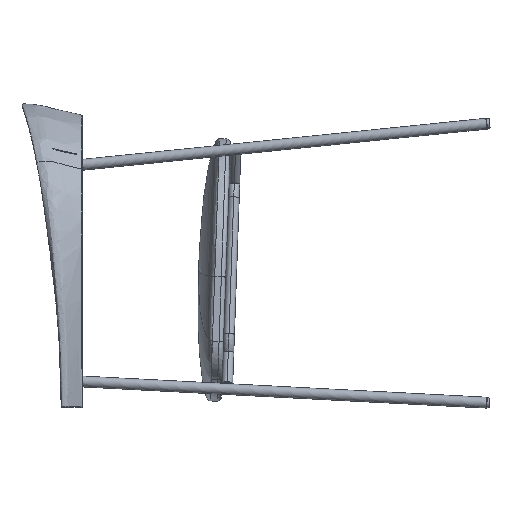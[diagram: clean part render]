
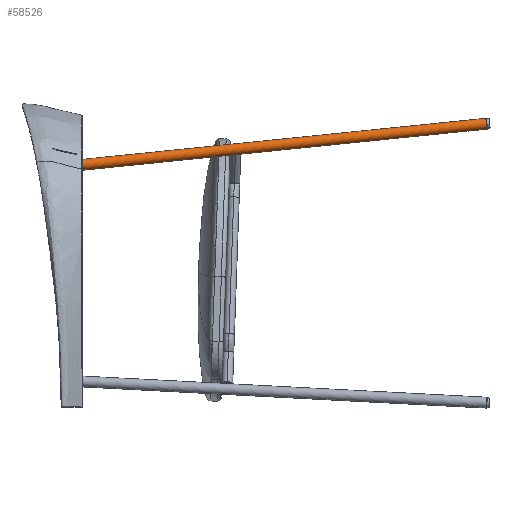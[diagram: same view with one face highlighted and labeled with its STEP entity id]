
A CAD part, left-side view. The second image highlights one B-rep face of the part: STEP entity #58526.
In plain terms, the highlighted cylindrical face has radius 9 mm (diameter 18 mm), a partial arc.
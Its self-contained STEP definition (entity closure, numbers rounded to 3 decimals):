
#12 = EDGE_CURVE ( 'NONE', #6083, #65000, #40875, .T. ) ;
#6083 = VERTEX_POINT ( 'NONE', #10333 ) ;
#10198 = VERTEX_POINT ( 'NONE', #58269 ) ;
#10333 = CARTESIAN_POINT ( 'NONE',  ( -198.85, -0.91, 200.226 ) ) ;
#10559 = DIRECTION ( 'NONE',  ( 0., 0.101, 0.995 ) ) ;
#11785 = LINE ( 'NONE', #63733, #47596 ) ;
#13680 = VERTEX_POINT ( 'NONE', #14465 ) ;
#14465 = CARTESIAN_POINT ( 'NONE',  ( -180.2, 671.459, 150.022 ) ) ;
#16642 = AXIS2_PLACEMENT_3D ( 'NONE', #66575, #41441, #60799 ) ;
#18422 = ORIENTED_EDGE ( 'NONE', *, *, #55628, .T. ) ;
#18514 = ORIENTED_EDGE ( 'NONE', *, *, #12, .F. ) ;
#23261 = EDGE_CURVE ( 'NONE', #6083, #10198, #41612, .T. ) ;
#24849 = VECTOR ( 'NONE', #66685, 1000. ) ;
#28087 = CARTESIAN_POINT ( 'NONE',  ( -180.2, 670.55, 141.068 ) ) ;
#28203 = ORIENTED_EDGE ( 'NONE', *, *, #23261, .T. ) ;
#28699 = CARTESIAN_POINT ( 'NONE',  ( -180.2, 669.64, 132.114 ) ) ;
#30934 = DIRECTION ( 'NONE',  ( 0.028, 0.995, -0.101 ) ) ;
#32246 = AXIS2_PLACEMENT_3D ( 'NONE', #28087, #44385, #33853 ) ;
#33301 = CIRCLE ( 'NONE', #32246, 9. ) ;
#33853 = DIRECTION ( 'NONE',  ( 0., 0.101, 0.995 ) ) ;
#36029 = CYLINDRICAL_SURFACE ( 'NONE', #36703, 9. ) ;
#36703 = AXIS2_PLACEMENT_3D ( 'NONE', #51310, #30934, #10559 ) ;
#40875 = LINE ( 'NONE', #45972, #24849 ) ;
#41441 = DIRECTION ( 'NONE',  ( 0.028, 0.995, -0.101 ) ) ;
#41612 = CIRCLE ( 'NONE', #16642, 9. ) ;
#44385 = DIRECTION ( 'NONE',  ( 0.028, 0.995, -0.101 ) ) ;
#45972 = CARTESIAN_POINT ( 'NONE',  ( -198.85, -0.91, 200.226 ) ) ;
#47596 = VECTOR ( 'NONE', #48457, 1000. ) ;
#48457 = DIRECTION ( 'NONE',  ( 0.028, 0.995, -0.101 ) ) ;
#51310 = CARTESIAN_POINT ( 'NONE',  ( -198.85, 0., 209.18 ) ) ;
#55628 = EDGE_CURVE ( 'NONE', #10198, #13680, #11785, .T. ) ;
#56027 = EDGE_LOOP ( 'NONE', ( #18514, #28203, #18422, #59522 ) ) ;
#58269 = CARTESIAN_POINT ( 'NONE',  ( -198.85, 0.91, 218.134 ) ) ;
#58526 = ADVANCED_FACE ( 'NONE', ( #61498 ), #36029, .T. ) ;
#59522 = ORIENTED_EDGE ( 'NONE', *, *, #61824, .F. ) ;
#60799 = DIRECTION ( 'NONE',  ( 0., 0.101, 0.995 ) ) ;
#61498 = FACE_OUTER_BOUND ( 'NONE', #56027, .T. ) ;
#61824 = EDGE_CURVE ( 'NONE', #65000, #13680, #33301, .T. ) ;
#63733 = CARTESIAN_POINT ( 'NONE',  ( -198.85, 0.91, 218.134 ) ) ;
#65000 = VERTEX_POINT ( 'NONE', #28699 ) ;
#66575 = CARTESIAN_POINT ( 'NONE',  ( -198.85, 0., 209.18 ) ) ;
#66685 = DIRECTION ( 'NONE',  ( 0.028, 0.995, -0.101 ) ) ;
